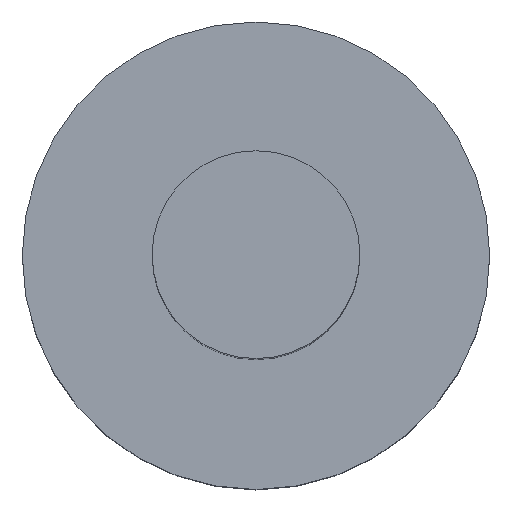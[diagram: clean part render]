
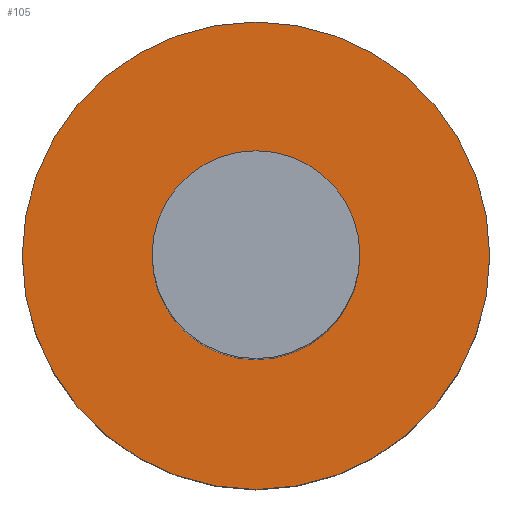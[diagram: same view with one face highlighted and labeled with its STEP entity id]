
A CAD part, top view. The second image highlights one B-rep face of the part: STEP entity #105.
In plain terms, the highlighted planar face has unit normal (0, 0, 1).
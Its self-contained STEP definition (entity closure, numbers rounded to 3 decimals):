
#21 = EDGE_CURVE('',#22,#22,#24,.T.);
#22 = VERTEX_POINT('',#23);
#23 = CARTESIAN_POINT('',(1.8,-6.,-9.4));
#24 = SURFACE_CURVE('',#25,(#30,#42),.PCURVE_S1.);
#25 = CIRCLE('',#26,1.8);
#26 = AXIS2_PLACEMENT_3D('',#27,#28,#29);
#27 = CARTESIAN_POINT('',(0.,-6.,-9.4));
#28 = DIRECTION('',(0.,0.,1.));
#29 = DIRECTION('',(1.,0.,-0.));
#30 = PCURVE('',#31,#36);
#31 = CYLINDRICAL_SURFACE('',#32,1.8);
#32 = AXIS2_PLACEMENT_3D('',#33,#34,#35);
#33 = CARTESIAN_POINT('',(0.,-6.,-11.4));
#34 = DIRECTION('',(0.,0.,1.));
#35 = DIRECTION('',(1.,0.,-0.));
#36 = DEFINITIONAL_REPRESENTATION('',(#37),#41);
#37 = LINE('',#38,#39);
#38 = CARTESIAN_POINT('',(0.,2.));
#39 = VECTOR('',#40,1.);
#40 = DIRECTION('',(1.,0.));
#41 = ( GEOMETRIC_REPRESENTATION_CONTEXT(2) 
PARAMETRIC_REPRESENTATION_CONTEXT() REPRESENTATION_CONTEXT('2D SPACE',''
  ) );
#42 = PCURVE('',#43,#48);
#43 = PLANE('',#44);
#44 = AXIS2_PLACEMENT_3D('',#45,#46,#47);
#45 = CARTESIAN_POINT('',(0.,-6.,-9.4));
#46 = DIRECTION('',(0.,0.,1.));
#47 = DIRECTION('',(1.,0.,-0.));
#48 = DEFINITIONAL_REPRESENTATION('',(#49),#53);
#49 = CIRCLE('',#50,1.8);
#50 = AXIS2_PLACEMENT_2D('',#51,#52);
#51 = CARTESIAN_POINT('',(0.,0.));
#52 = DIRECTION('',(1.,0.));
#53 = ( GEOMETRIC_REPRESENTATION_CONTEXT(2) 
PARAMETRIC_REPRESENTATION_CONTEXT() REPRESENTATION_CONTEXT('2D SPACE',''
  ) );
#105 = ADVANCED_FACE('',(#106,#109),#43,.T.);
#106 = FACE_BOUND('',#107,.T.);
#107 = EDGE_LOOP('',(#108));
#108 = ORIENTED_EDGE('',*,*,#21,.T.);
#109 = FACE_BOUND('',#110,.T.);
#110 = EDGE_LOOP('',(#111));
#111 = ORIENTED_EDGE('',*,*,#112,.F.);
#112 = EDGE_CURVE('',#113,#113,#115,.T.);
#113 = VERTEX_POINT('',#114);
#114 = CARTESIAN_POINT('',(0.8,-6.,-9.4));
#115 = SURFACE_CURVE('',#116,(#121,#128),.PCURVE_S1.);
#116 = CIRCLE('',#117,0.8);
#117 = AXIS2_PLACEMENT_3D('',#118,#119,#120);
#118 = CARTESIAN_POINT('',(0.,-6.,-9.4));
#119 = DIRECTION('',(0.,0.,1.));
#120 = DIRECTION('',(1.,0.,-0.));
#121 = PCURVE('',#43,#122);
#122 = DEFINITIONAL_REPRESENTATION('',(#123),#127);
#123 = CIRCLE('',#124,0.8);
#124 = AXIS2_PLACEMENT_2D('',#125,#126);
#125 = CARTESIAN_POINT('',(0.,0.));
#126 = DIRECTION('',(1.,0.));
#127 = ( GEOMETRIC_REPRESENTATION_CONTEXT(2) 
PARAMETRIC_REPRESENTATION_CONTEXT() REPRESENTATION_CONTEXT('2D SPACE',''
  ) );
#128 = PCURVE('',#129,#134);
#129 = CYLINDRICAL_SURFACE('',#130,0.8);
#130 = AXIS2_PLACEMENT_3D('',#131,#132,#133);
#131 = CARTESIAN_POINT('',(0.,-6.,-9.4));
#132 = DIRECTION('',(0.,0.,1.));
#133 = DIRECTION('',(1.,0.,-0.));
#134 = DEFINITIONAL_REPRESENTATION('',(#135),#139);
#135 = LINE('',#136,#137);
#136 = CARTESIAN_POINT('',(0.,0.));
#137 = VECTOR('',#138,1.);
#138 = DIRECTION('',(1.,0.));
#139 = ( GEOMETRIC_REPRESENTATION_CONTEXT(2) 
PARAMETRIC_REPRESENTATION_CONTEXT() REPRESENTATION_CONTEXT('2D SPACE',''
  ) );
